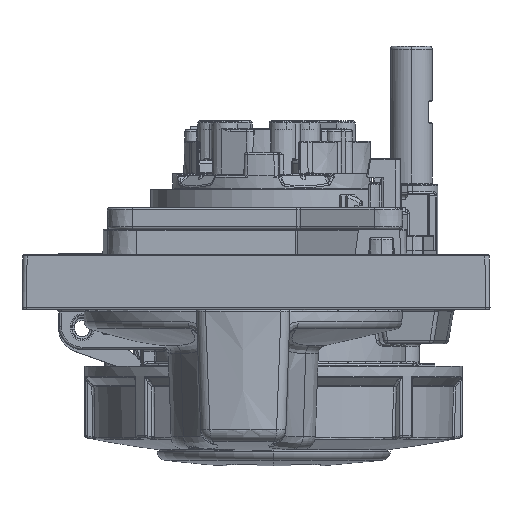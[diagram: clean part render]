
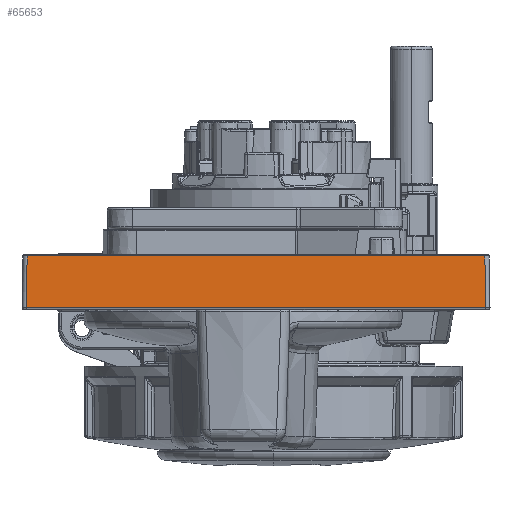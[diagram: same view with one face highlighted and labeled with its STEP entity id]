
A CAD part, left-side view. The second image highlights one B-rep face of the part: STEP entity #65653.
In plain terms, the highlighted planar face has unit normal (-1, 0, 0.018).
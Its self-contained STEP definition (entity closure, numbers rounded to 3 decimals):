
#3247=DIRECTION('',(0.,-1.,0.));
#3248=VECTOR('',#3247,107.983);
#3249=CARTESIAN_POINT('',(-99.991,51.991,
0.509));
#3250=LINE('5478',#3249,#3248);
#3268=CARTESIAN_POINT('',(-99.991,51.991,
0.509));
#3359=DIRECTION('',(0.017,-0.017,1.));
#3360=VECTOR('',#3359,12.159);
#3361=CARTESIAN_POINT('',(-99.991,51.991,
0.509));
#3362=LINE('5463',#3361,#3360);
#3363=DIRECTION('',(-0.017,-0.017,-1.));
#3364=VECTOR('',#3363,12.159);
#3365=CARTESIAN_POINT('',(-99.779,-55.779,
12.664));
#3366=LINE('5479',#3365,#3364);
#4332=DIRECTION('',(0.,1.,0.));
#4333=VECTOR('',#4332,107.558);
#4334=CARTESIAN_POINT('',(-99.779,-55.779,
12.664));
#4335=LINE('5446',#4334,#4333);
#51393=CARTESIAN_POINT('',(-99.779,-55.779,
12.664));
#51394=VERTEX_POINT('',#51393);
#51395=CARTESIAN_POINT('',(-99.779,51.779,
12.664));
#51396=VERTEX_POINT('',#51395);
#51410=VERTEX_POINT('',#3268);
#51421=CARTESIAN_POINT('',(-99.991,-55.991,
0.509));
#51422=VERTEX_POINT('',#51421);
#65640=CARTESIAN_POINT('',(-100.,55.2,0.));
#65641=DIRECTION('',(-1.,0.,0.017));
#65642=DIRECTION('',(0.,1.,0.));
#65643=AXIS2_PLACEMENT_3D('',#65640,#65641,#65642);
#65644=PLANE('974',#65643);
#65645=ORIENTED_EDGE('5478',*,*,#65409,.F.);
#65647=ORIENTED_EDGE('5463',*,*,#65646,.T.);
#65649=ORIENTED_EDGE('5446',*,*,#65648,.F.);
#65650=ORIENTED_EDGE('5479',*,*,#65624,.T.);
#65651=EDGE_LOOP('974',(#65645,#65647,#65649,#65650));
#65652=FACE_OUTER_BOUND('974',#65651,.F.);
#65409=EDGE_CURVE('5478',#51410,#51422,#3250,.T.);
#65624=EDGE_CURVE('5479',#51394,#51422,#3366,.T.);
#65646=EDGE_CURVE('5463',#51410,#51396,#3362,.T.);
#65648=EDGE_CURVE('5446',#51394,#51396,#4335,.T.);
#65653=ADVANCED_FACE('974',(#65652),#65644,.T.);
